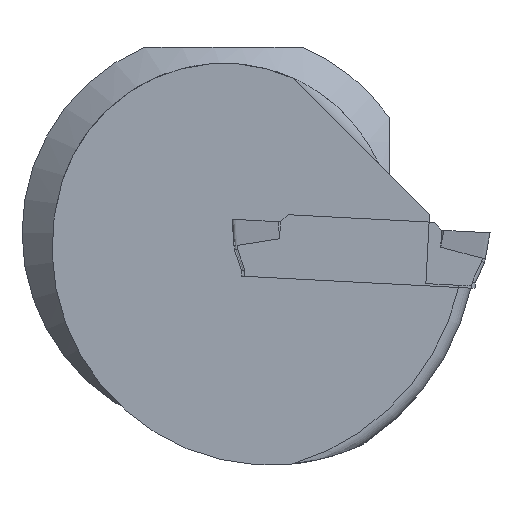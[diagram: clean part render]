
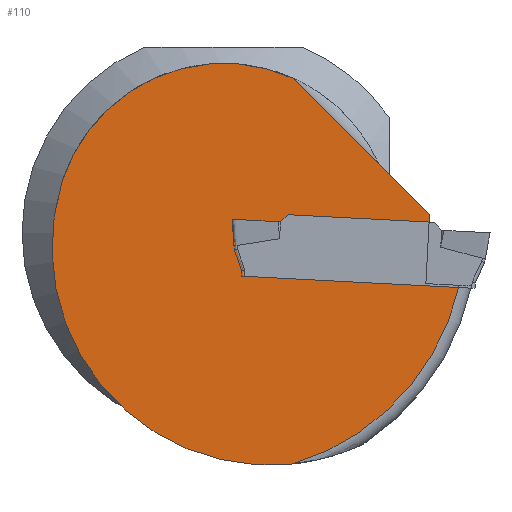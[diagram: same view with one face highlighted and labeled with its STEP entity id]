
A CAD part, left-side view. The second image highlights one B-rep face of the part: STEP entity #110.
In plain terms, the highlighted planar face has unit normal (-1, 0, 0).
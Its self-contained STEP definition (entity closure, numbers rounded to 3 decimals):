
#110=ADVANCED_FACE('',(#199),#166,.F.);
#166=PLANE('',#1086);
#199=FACE_OUTER_BOUND('',#256,.T.);
#256=EDGE_LOOP('',(#524,#525,#526,#527,#528,#529,#530));
#321=LINE('',#1515,#418);
#322=LINE('',#1518,#419);
#323=LINE('',#1520,#420);
#324=LINE('',#1525,#421);
#418=VECTOR('',#1202,1.);
#419=VECTOR('',#1203,1.);
#420=VECTOR('',#1204,1.);
#421=VECTOR('',#1209,1.);
#524=ORIENTED_EDGE('',*,*,#910,.T.);
#525=ORIENTED_EDGE('',*,*,#911,.T.);
#526=ORIENTED_EDGE('',*,*,#912,.T.);
#527=ORIENTED_EDGE('',*,*,#904,.T.);
#528=ORIENTED_EDGE('',*,*,#913,.F.);
#529=ORIENTED_EDGE('',*,*,#914,.T.);
#530=ORIENTED_EDGE('',*,*,#915,.T.);
#809=VERTEX_POINT('',#1490);
#810=VERTEX_POINT('',#1492);
#814=VERTEX_POINT('',#1516);
#815=VERTEX_POINT('',#1517);
#816=VERTEX_POINT('',#1519);
#817=VERTEX_POINT('',#1522);
#818=VERTEX_POINT('',#1524);
#904=EDGE_CURVE('',#810,#809,#1044,.T.);
#910=EDGE_CURVE('',#814,#815,#321,.T.);
#911=EDGE_CURVE('',#815,#816,#322,.T.);
#912=EDGE_CURVE('',#816,#810,#323,.T.);
#913=EDGE_CURVE('',#817,#809,#1046,.T.);
#914=EDGE_CURVE('',#817,#818,#1047,.T.);
#915=EDGE_CURVE('',#818,#814,#324,.T.);
#1044=CIRCLE('',#1081,10.5);
#1046=CIRCLE('',#1084,13.5);
#1047=CIRCLE('',#1085,14.95);
#1081=AXIS2_PLACEMENT_3D('',#1491,#1193,#1194);
#1084=AXIS2_PLACEMENT_3D('',#1521,#1205,#1206);
#1085=AXIS2_PLACEMENT_3D('',#1523,#1207,#1208);
#1086=AXIS2_PLACEMENT_3D('',#1526,#1210,#1211);
#1193=DIRECTION('',(-1.,0.,0.));
#1194=DIRECTION('',(0.,0.,-1.));
#1202=DIRECTION('',(0.,-0.052,0.999));
#1203=DIRECTION('',(0.,0.,1.));
#1204=DIRECTION('',(0.,0.707,0.707));
#1205=DIRECTION('',(1.,0.,0.));
#1206=DIRECTION('',(0.,0.,-1.));
#1207=DIRECTION('',(-1.,0.,0.));
#1208=DIRECTION('',(0.,0.,-1.));
#1209=DIRECTION('',(0.,0.999,0.052));
#1210=DIRECTION('',(1.,0.,0.));
#1211=DIRECTION('',(0.,0.,-1.));
#1490=CARTESIAN_POINT('',(0.25,26.516,3.15));
#1491=CARTESIAN_POINT('',(0.25,16.5,0.));
#1492=CARTESIAN_POINT('',(0.25,12.198,9.578));
#1515=CARTESIAN_POINT('',(0.25,4.055,-4.719));
#1516=CARTESIAN_POINT('',(0.25,3.973,-3.147));
#1517=CARTESIAN_POINT('',(0.25,3.767,0.773));
#1518=CARTESIAN_POINT('',(0.25,3.767,0.773));
#1519=CARTESIAN_POINT('',(0.25,3.767,1.147));
#1520=CARTESIAN_POINT('',(0.25,5.322,2.702));
#1521=CARTESIAN_POINT('',(0.25,13.638,-0.9));
#1522=CARTESIAN_POINT('',(0.25,12.225,-14.326));
#1523=CARTESIAN_POINT('',(0.25,16.5,0.));
#1524=CARTESIAN_POINT('',(0.25,1.909,-3.255));
#1525=CARTESIAN_POINT('',(0.25,14.106,-2.616));
#1526=CARTESIAN_POINT('',(0.25,11.5,0.));
